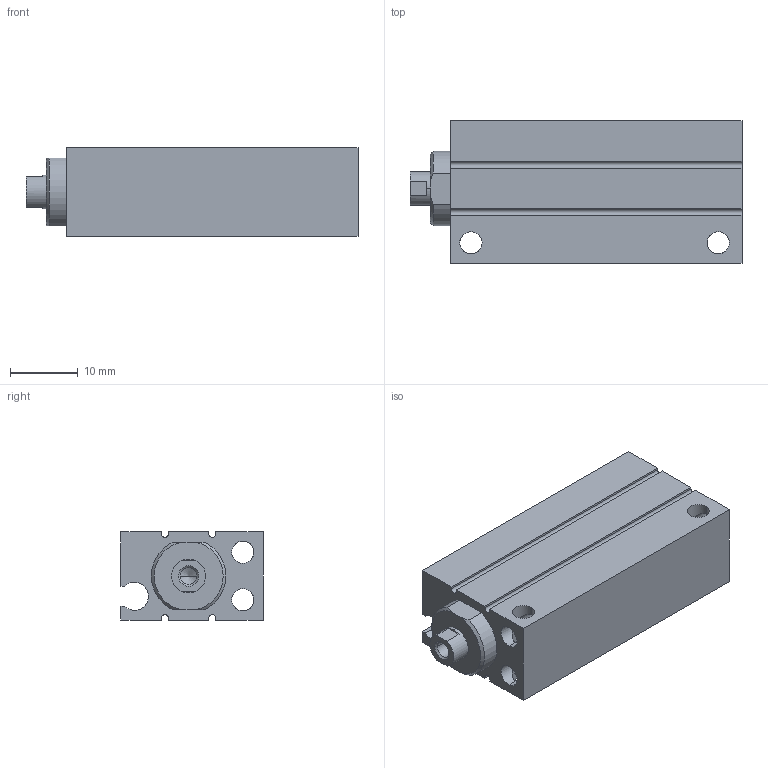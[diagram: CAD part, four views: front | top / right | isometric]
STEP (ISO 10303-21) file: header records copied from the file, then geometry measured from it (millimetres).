
FILE_DESCRIPTION (( 'STEP AP203' ), '1' );
FILE_NAME ('CLJB8-30.STEP', '2020-07-30T18:46:08', ( '' ), ( '' ), 'SwSTEP 2.0', 'SolidWorks 2019', '' );
FILE_SCHEMA (( 'CONFIG_CONTROL_DESIGN' ));
Length unit declared in the file: millimetre
Products named in the file (1): CLJB8-30
Bounding box: 49 x 21 x 13 mm (x, y, z)
Volume: 9506.1 mm3; surface area: 6810.9 mm2
Topology: 2 solids, 2 shells, 96 faces, 252 edges, 153 vertices
Faces by surface type: cylinder 49, plane 33, cone 14
Entity records: 2995 total; most frequent: CARTESIAN_POINT 604, ORIENTED_EDGE 492, DIRECTION 482, EDGE_CURVE 246, AXIS2_PLACEMENT_3D 175, VERTEX_POINT 153, LINE 132, VECTOR 132
